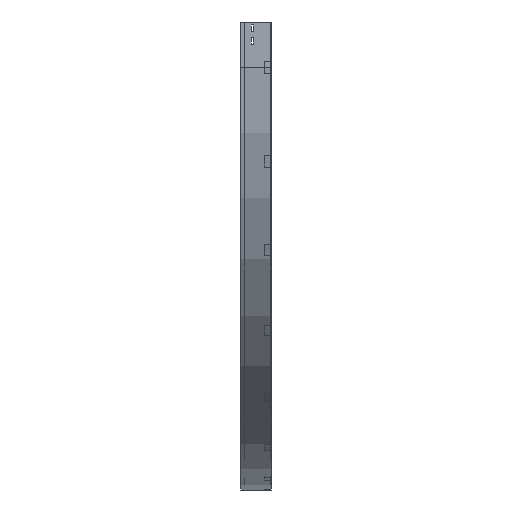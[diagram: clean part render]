
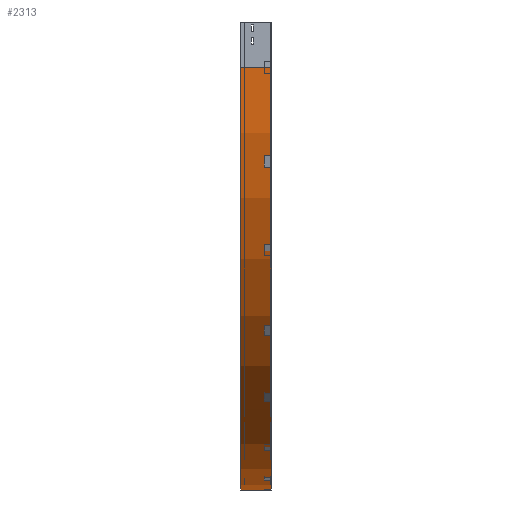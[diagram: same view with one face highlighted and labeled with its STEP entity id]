
A CAD part, left-side view. The second image highlights one B-rep face of the part: STEP entity #2313.
In plain terms, the highlighted cylindrical face has radius 1400 mm (diameter 2800 mm), a partial arc.
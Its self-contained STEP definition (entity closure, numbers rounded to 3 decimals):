
#64 = DIRECTION ( 'NONE',  ( 0., -1., 0. ) ) ;
#135 = CARTESIAN_POINT ( 'NONE',  ( 0., 0., -150. ) ) ;
#302 = AXIS2_PLACEMENT_3D ( 'NONE', #2124, #3644, #1790 ) ;
#326 = ORIENTED_EDGE ( 'NONE', *, *, #1966, .T. ) ;
#331 = EDGE_CURVE ( 'NONE', #2937, #3180, #3533, .T. ) ;
#386 = DIRECTION ( 'NONE',  ( 0., -1., 0. ) ) ;
#463 = VERTEX_POINT ( 'NONE', #1056 ) ;
#474 = DIRECTION ( 'NONE',  ( 0., -1., 0. ) ) ;
#866 = CIRCLE ( 'NONE', #302, 1400. ) ;
#939 = FACE_OUTER_BOUND ( 'NONE', #2592, .T. ) ;
#965 = CARTESIAN_POINT ( 'NONE',  ( 1400., 0., -1550. ) ) ;
#1056 = CARTESIAN_POINT ( 'NONE',  ( 1400., 100., -1550. ) ) ;
#1173 = DIRECTION ( 'NONE',  ( 0., 0., -1. ) ) ;
#1205 = ORIENTED_EDGE ( 'NONE', *, *, #3488, .T. ) ;
#1381 = EDGE_CURVE ( 'NONE', #3555, #2937, #2497, .T. ) ;
#1382 = AXIS2_PLACEMENT_3D ( 'NONE', #3407, #64, #2473 ) ;
#1414 = VECTOR ( 'NONE', #474, 1000. ) ;
#1527 = DIRECTION ( 'NONE',  ( 0., -1., 0. ) ) ;
#1790 = DIRECTION ( 'NONE',  ( -1., 0., 0. ) ) ;
#1966 = EDGE_CURVE ( 'NONE', #463, #3180, #3682, .T. ) ;
#2117 = CARTESIAN_POINT ( 'NONE',  ( 1400., 0., -150. ) ) ;
#2124 = CARTESIAN_POINT ( 'NONE',  ( 1400., 100., -150. ) ) ;
#2210 = ORIENTED_EDGE ( 'NONE', *, *, #1381, .F. ) ;
#2295 = VECTOR ( 'NONE', #386, 1000. ) ;
#2313 = ADVANCED_FACE ( 'NONE', ( #939 ), #2406, .T. ) ;
#2406 = CYLINDRICAL_SURFACE ( 'NONE', #2668, 1400. ) ;
#2473 = DIRECTION ( 'NONE',  ( -1., 0., 0. ) ) ;
#2497 = LINE ( 'NONE', #2531, #1414 ) ;
#2531 = CARTESIAN_POINT ( 'NONE',  ( 0., 0., -150. ) ) ;
#2592 = EDGE_LOOP ( 'NONE', ( #3419, #2210, #1205, #326 ) ) ;
#2668 = AXIS2_PLACEMENT_3D ( 'NONE', #2117, #1527, #1173 ) ;
#2937 = VERTEX_POINT ( 'NONE', #135 ) ;
#3180 = VERTEX_POINT ( 'NONE', #3306 ) ;
#3306 = CARTESIAN_POINT ( 'NONE',  ( 1400., 0., -1550. ) ) ;
#3407 = CARTESIAN_POINT ( 'NONE',  ( 1400., 0., -150. ) ) ;
#3419 = ORIENTED_EDGE ( 'NONE', *, *, #331, .F. ) ;
#3488 = EDGE_CURVE ( 'NONE', #3555, #463, #866, .T. ) ;
#3533 = CIRCLE ( 'NONE', #1382, 1400. ) ;
#3555 = VERTEX_POINT ( 'NONE', #3882 ) ;
#3644 = DIRECTION ( 'NONE',  ( 0., -1., 0. ) ) ;
#3682 = LINE ( 'NONE', #965, #2295 ) ;
#3882 = CARTESIAN_POINT ( 'NONE',  ( 0., 100., -150. ) ) ;
